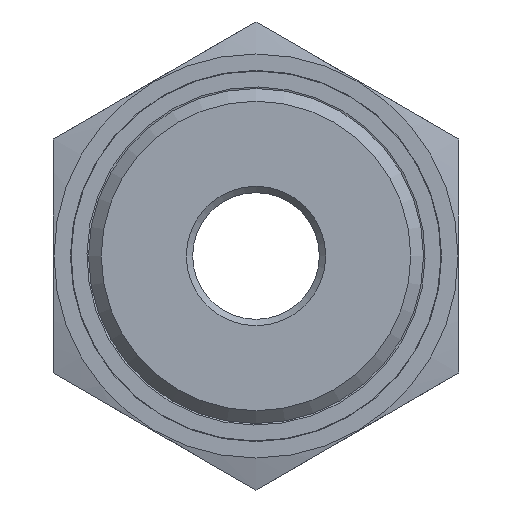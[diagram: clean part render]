
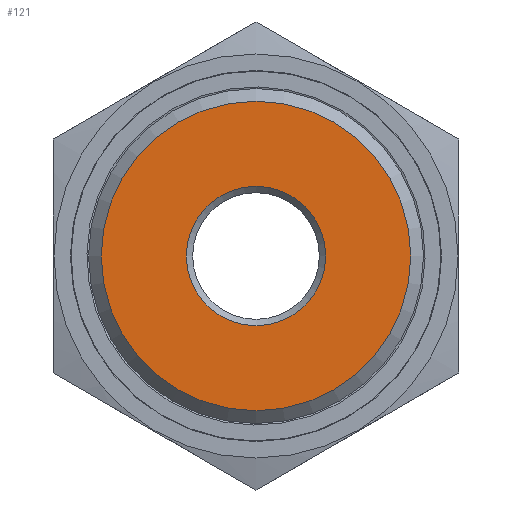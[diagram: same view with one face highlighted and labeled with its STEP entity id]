
A CAD part, left-side view. The second image highlights one B-rep face of the part: STEP entity #121.
In plain terms, the highlighted planar face has unit normal (-1, 0, 0).
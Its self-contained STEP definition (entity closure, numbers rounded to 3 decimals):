
#121 = ADVANCED_FACE( '', ( #248, #249 ), #250, .T. );
#248 = FACE_BOUND( '', #404, .T. );
#249 = FACE_OUTER_BOUND( '', #405, .T. );
#250 = PLANE( '', #406 );
#404 = EDGE_LOOP( '', ( #569 ) );
#405 = EDGE_LOOP( '', ( #570 ) );
#406 = AXIS2_PLACEMENT_3D( '', #571, #572, #573 );
#569 = ORIENTED_EDGE( '', *, *, #784, .T. );
#570 = ORIENTED_EDGE( '', *, *, #785, .T. );
#571 = CARTESIAN_POINT( '', ( -37., -16., -9.238 ) );
#572 = DIRECTION( '', ( -1., 0., 0. ) );
#573 = DIRECTION( '', ( 0., -1., 0. ) );
#784 = EDGE_CURVE( '', #886, #886, #887, .F. );
#785 = EDGE_CURVE( '', #888, #888, #889, .T. );
#886 = VERTEX_POINT( '', #1031 );
#887 = CIRCLE( '', #1032, 5.5 );
#888 = VERTEX_POINT( '', #1033 );
#889 = CIRCLE( '', #1034, 12.221 );
#1031 = CARTESIAN_POINT( '', ( -37., -5.5, 0. ) );
#1032 = AXIS2_PLACEMENT_3D( '', #1243, #1244, #1245 );
#1033 = CARTESIAN_POINT( '', ( -37., -12.221, 0. ) );
#1034 = AXIS2_PLACEMENT_3D( '', #1246, #1247, #1248 );
#1243 = CARTESIAN_POINT( '', ( -37., 0., 0. ) );
#1244 = DIRECTION( '', ( -1., 0., 0. ) );
#1245 = DIRECTION( '', ( 0., -1., 0. ) );
#1246 = CARTESIAN_POINT( '', ( -37., 0., 0. ) );
#1247 = DIRECTION( '', ( -1., 0., 0. ) );
#1248 = DIRECTION( '', ( 0., -1., 0. ) );
